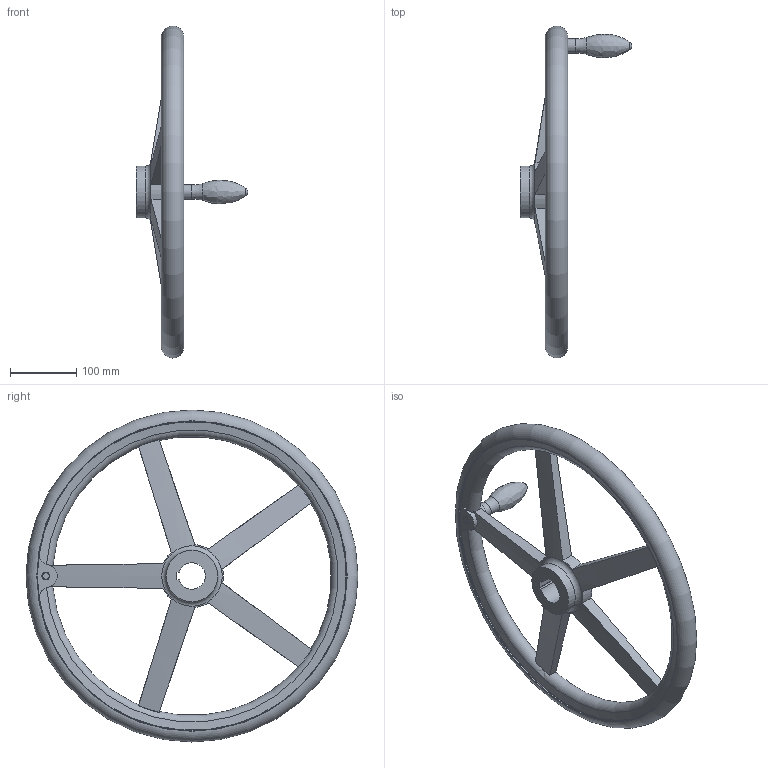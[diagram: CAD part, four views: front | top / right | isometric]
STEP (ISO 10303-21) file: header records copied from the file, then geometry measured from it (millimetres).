
FILE_DESCRIPTION( ( 'STEP AP203' ), '1' );
FILE_NAME( 'C:/Temp/Ganter_Step_05_03_2020/data/1_3/din_950/din_950_k/din_950_k_f/Handwheel DIN 950-AL-500-K40-F.stp', '2020-03-05T10:31:29', ( 'License CC BY-ND 4.0' ), ( 'CADENAS' ), ' ', 'PARTsolutions', ' ' );
FILE_SCHEMA( ( 'CONFIG_CONTROL_DESIGN' ) );
Length unit declared in the file: millimetre
Products named in the file (1): _Handwheel DIN 950-AL-500-K40-F
Bounding box: 168.5 x 499.98 x 499.98 mm (x, y, z)
Volume: 2132581.1 mm3; surface area: 288643.9 mm2
Topology: 1 solids, 1 shells, 66 faces, 196 edges, 127 vertices
Faces by surface type: torus 21, cylinder 20, plane 18, cone 5, sphere 1, bspline 1
Full cylindrical faces by diameter (mm): 12 x1, 21.8 x1, 78 x2, 466 x2
Entity records: 2669 total; most frequent: CARTESIAN_POINT 1042, ORIENTED_EDGE 338, DIRECTION 300, EDGE_CURVE 169, AXIS2_PLACEMENT_3D 137, VERTEX_POINT 121, EDGE_LOOP 92, FACE_OUTER_BOUND 81
